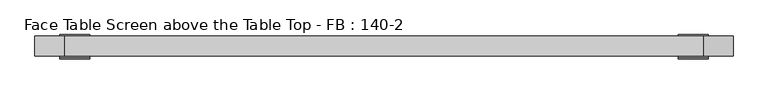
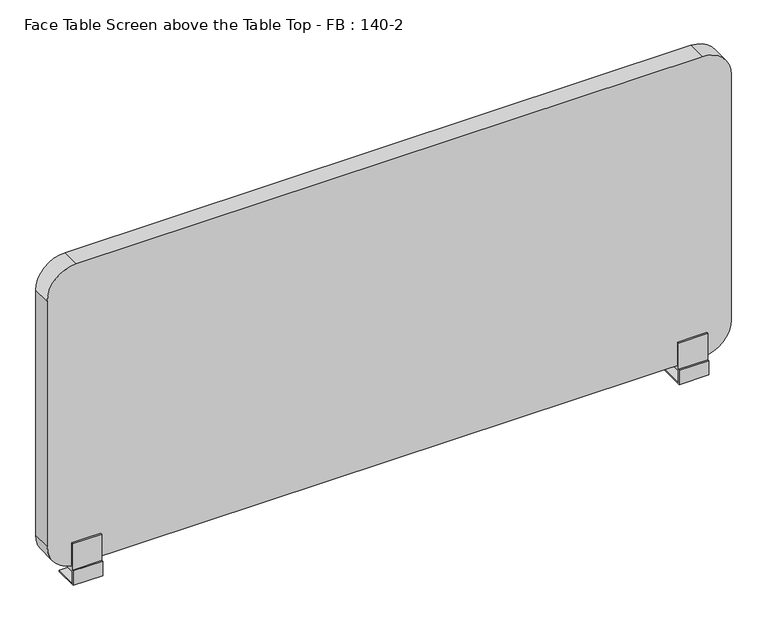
"""IFC4 building model written with IfcOpenShell, lengths in millimetres: furniture geometry, Face Table Screen above the Table Top - FB : 140-2."""

import ifcopenshell
import ifcopenshell.guid

model = None  # the IFC model being written
_history = None  # IfcOwnerHistory: only IFC2X3 demands one
_inside = {}  # id of a spatial element -> (the spatial element, [elements in it])
_under = {}  # id of a project, library or spatial element -> (it, [spatial elements below it])
_declared = {}  # id of a project -> (the project, [libraries it declares])
_typed = {}  # id of a type object -> (the type object, [elements of that type])
_made_of = {}  # id of a material, layer set ... -> (it, [elements and type objects made of it])


def new_model(schema):
    """Start an empty IFC model of exactly this schema.

    Asked for "IFC4X3", IfcOpenShell would pick the latest addendum, in which some entities
    have other attributes; the version numbers below select the first issue.
    IFC2X3 requires an IfcOwnerHistory on every rooted entity: one is made here for all.
    """
    global model, _history
    if schema == "IFC4X3":
        model = ifcopenshell.file(schema_version=(4, 3, 0, 0))
    else:
        model = ifcopenshell.file(schema=schema)
    _inside.clear()
    _under.clear()
    _declared.clear()
    _typed.clear()
    _made_of.clear()
    _history = None
    if model.schema == "IFC2X3":
        org = make("IfcOrganization", Name="unknown")
        user = make(
            "IfcPersonAndOrganization",
            ThePerson=make("IfcPerson", FamilyName="unknown"),
            TheOrganization=org,
        )
        app = make(
            "IfcApplication",
            ApplicationDeveloper=org,
            Version="unknown",
            ApplicationFullName="unknown",
            ApplicationIdentifier="unknown",
        )
        _history = make(
            "IfcOwnerHistory",
            OwningUser=user,
            OwningApplication=app,
            ChangeAction="ADDED",
            CreationDate=0,
        )
    return model


def make(cls, **values):
    """One entity of the class cls with the attributes given. An attribute that is None is left unset."""
    return model.create_entity(
        cls, **{name: value for name, value in values.items() if value is not None}
    )


def rooted(cls, **values):
    """An entity with a GlobalId (a new one), such as an element, a storey or a relation."""
    return make(cls, GlobalId=ifcopenshell.guid.new(), OwnerHistory=_history, **values)


def si_unit(unit_type, name, prefix=None):
    """IfcSIUnit, for example si_unit("LENGTHUNIT", "METRE", prefix="MILLI")."""
    return make("IfcSIUnit", UnitType=unit_type, Prefix=prefix, Name=name)


def assignment(units):
    """IfcUnitAssignment: the units of a project."""
    return None if units is None else make("IfcUnitAssignment", Units=units)


def point(xyz):
    """IfcCartesianPoint."""
    return None if xyz is None else make("IfcCartesianPoint", Coordinates=xyz)


def direction(xyz):
    """IfcDirection."""
    return None if xyz is None else make("IfcDirection", DirectionRatios=xyz)


def frame(location, z_axis=None, x_axis=None):
    """IfcAxis2Placement3D, a coordinate frame: its origin and axes. An axis left out is left unset."""
    return make(
        "IfcAxis2Placement3D",
        Location=point(location),
        Axis=direction(z_axis),
        RefDirection=direction(x_axis),
    )


def frame_2d(location, x_axis=None):
    """IfcAxis2Placement2D, a coordinate frame in the plane: its origin and x axis."""
    return make(
        "IfcAxis2Placement2D", Location=point(location), RefDirection=direction(x_axis)
    )


def origin():
    """The frame at (0, 0, 0) with its axes left unset."""
    return frame((0.0, 0.0, 0.0))


def place(relative_to, where):
    """IfcLocalPlacement: puts the frame where relative to a parent placement (None: the world)."""
    return make(
        "IfcLocalPlacement", PlacementRelTo=relative_to, RelativePlacement=where
    )


def context(
    kind, dimensions, precision=None, world=None, true_north=None, identifier=None
):
    """IfcGeometricRepresentationContext, for example the 3D "Model" context."""
    return make(
        "IfcGeometricRepresentationContext",
        ContextIdentifier=identifier,
        ContextType=kind,
        CoordinateSpaceDimension=dimensions,
        Precision=precision,
        WorldCoordinateSystem=world,
        TrueNorth=true_north,
    )


def project(units=None, contexts=None):
    """IfcProject with its units and contexts."""
    return rooted(
        "IfcProject",
        Name="project",
        RepresentationContexts=contexts,
        UnitsInContext=assignment(units),
    )


def spatial(cls, under=None, at=None, **own):
    """A site, building, storey or space (cls), placed at a placement, below another one or the project."""
    s = rooted(cls, ObjectPlacement=at, **own)
    if under is not None:
        _under.setdefault(under.id(), (under, []))[1].append(s)
    return s


def polyline(points):
    """IfcPolyline through the points."""
    return make("IfcPolyline", Points=[point(p) for p in points])


def circle_curve(where, radius):
    """IfcCircle in the frame where."""
    return make("IfcCircle", Position=where, Radius=radius)


def trimmed(basis, trim1, trim2, sense, master):
    """IfcTrimmedCurve: the piece of a basis curve between two trims."""
    return make(
        "IfcTrimmedCurve",
        BasisCurve=basis,
        Trim1=trim1,
        Trim2=trim2,
        SenseAgreement=sense,
        MasterRepresentation=master,
    )


def segment(curve, same_sense, transition):
    """IfcCompositeCurveSegment."""
    return make(
        "IfcCompositeCurveSegment",
        Transition=transition,
        SameSense=same_sense,
        ParentCurve=curve,
    )


def composite_curve(segments, self_intersect=None):
    """IfcCompositeCurve: segments joined end to end."""
    return make("IfcCompositeCurve", Segments=segments, SelfIntersect=self_intersect)


def outline(outer, holes=None, kind="AREA"):
    """IfcArbitraryClosedProfileDef: a profile drawn as a closed curve; with holes, ...WithVoids."""
    if holes is None:
        return make("IfcArbitraryClosedProfileDef", ProfileType=kind, OuterCurve=outer)
    return make(
        "IfcArbitraryProfileDefWithVoids",
        ProfileType=kind,
        OuterCurve=outer,
        InnerCurves=holes,
    )


def extrude(swept, where, along, depth):
    """IfcExtrudedAreaSolid: the profile swept, set in the frame where, extruded along a direction by depth."""
    return make(
        "IfcExtrudedAreaSolid",
        SweptArea=swept,
        Position=where,
        ExtrudedDirection=direction(along),
        Depth=depth,
    )


def shape(context_of_items, identifier, shape_type, items):
    """IfcShapeRepresentation: the items that make up one representation, for example the "Body"."""
    return make(
        "IfcShapeRepresentation",
        ContextOfItems=context_of_items,
        RepresentationIdentifier=identifier,
        RepresentationType=shape_type,
        Items=items,
    )


def source(mapping_origin, context_of_items, identifier, shape_type, items):
    """IfcRepresentationMap: a shape defined once, which mapped items show again and again."""
    return make(
        "IfcRepresentationMap",
        MappingOrigin=mapping_origin,
        MappedRepresentation=shape(context_of_items, identifier, shape_type, items),
    )


def transform(
    local_origin,
    x_axis=None,
    y_axis=None,
    z_axis=None,
    scale=None,
    scale2=None,
    scale3=None,
    uniform=True,
):
    """IfcCartesianTransformationOperator3D, or its non-uniform kind. x_axis, y_axis, z_axis: its Axis1, 2, 3."""
    if uniform:
        return make(
            "IfcCartesianTransformationOperator3D",
            Axis1=direction(x_axis),
            Axis2=direction(y_axis),
            LocalOrigin=point(local_origin),
            Scale=scale,
            Axis3=direction(z_axis),
        )
    return make(
        "IfcCartesianTransformationOperator3DnonUniform",
        Axis1=direction(x_axis),
        Axis2=direction(y_axis),
        LocalOrigin=point(local_origin),
        Scale=scale,
        Axis3=direction(z_axis),
        Scale2=scale2,
        Scale3=scale3,
    )


def mapped(mapping_source, mapping_target):
    """IfcMappedItem: shows the shape of a source again, moved by a transform."""
    return make(
        "IfcMappedItem", MappingSource=mapping_source, MappingTarget=mapping_target
    )


def made_of(thing, what):
    """Note that an element or type object is made of a material, layer set ...; save() writes the relation."""
    if what is not None:
        _made_of.setdefault(what.id(), (what, []))[1].append(thing)
    return thing


def element(
    cls,
    number,
    at=None,
    inside=None,
    cuts=None,
    type_object=None,
    material=None,
    context=None,
    identifier="Body",
    shape_type=None,
    held_by="IfcProductDefinitionShape",
    body=None,
    shapes=None,
    **own,
):
    """One element of the class cls, such as IfcWall. Its Tag is "e" and its number.

    at: its placement. inside: the storey or other place that contains it. cuts: it is an
    opening in that element (IfcRelVoidsElement). A single representation is given by context,
    identifier, shape_type and body (its items); several are given by shapes. held_by: the class
    of the entity that holds the representations. save() writes the other relations.
    """
    e = rooted(cls, Tag="e%d" % number, ObjectPlacement=at, **own)
    if body is not None:
        shapes = [shape(context, identifier, shape_type, body)]
    if shapes is not None:
        e.Representation = make(held_by, Representations=shapes)
    if inside is not None:
        _inside.setdefault(inside.id(), (inside, []))[1].append(e)
    if cuts is not None:
        rooted(
            "IfcRelVoidsElement", RelatingBuildingElement=cuts, RelatedOpeningElement=e
        )
    if type_object is not None:
        _typed.setdefault(type_object.id(), (type_object, []))[1].append(e)
    return made_of(e, material)


def aggregate(whole, parts):
    """IfcRelAggregates: a whole, such as a stair, and the parts it consists of."""
    return rooted("IfcRelAggregates", RelatingObject=whole, RelatedObjects=parts)


def save(model, path):
    """Write the relations noted so far, then the file.

    IfcRelAggregates (storeys below a building ...), IfcRelContainedInSpatialStructure (elements
    in a storey), IfcRelDefinesByType, IfcRelAssociatesMaterial and IfcRelDeclares: one each for
    every whole, place, type object, material and project.
    """
    for whole, parts in _under.values():
        aggregate(whole, parts)
    for where, things in _inside.values():
        rooted(
            "IfcRelContainedInSpatialStructure",
            RelatedElements=things,
            RelatingStructure=where,
        )
    for kind, things in _typed.values():
        rooted("IfcRelDefinesByType", RelatedObjects=things, RelatingType=kind)
    for what, things in _made_of.values():
        rooted("IfcRelAssociatesMaterial", RelatedObjects=things, RelatingMaterial=what)
    for by, libraries in _declared.values():
        rooted("IfcRelDeclares", RelatingContext=by, RelatedDefinitions=libraries)
    model.write(path)


def plane_surface(at):
    """IfcPlane: the flat surface through the origin of the frame at, square to its z axis."""
    return make("IfcPlane", Position=at)


def cylinder_surface(at, radius):
    """IfcCylindricalSurface: all points at the distance radius from the z axis of the frame at."""
    return make("IfcCylindricalSurface", Position=at, Radius=radius)


def advanced_brep(points, edges, surfaces, faces):
    """IfcAdvancedBrep: a solid bounded by faces that lie on surfaces and meet in shared edges.

    An edge is (start, end): straight between two places in points (the first is 0);
    or (start, end, curve); or (start, end, curve, False) where it runs against its curve.
    A face is (place in surfaces, loops), or (place, loops, False) where it looks against
    its surface's normal. A loop lists edges by number (the first is 1), with a minus sign
    where the edge is run from its end to its start. The first loop is the outer one.
    """
    corners = [point(p) for p in points]
    vertices = [make("IfcVertexPoint", VertexGeometry=c) for c in corners]
    made = []
    for start, end, *more in edges:
        made.append(
            make(
                "IfcEdgeCurve",
                EdgeStart=vertices[start],
                EdgeEnd=vertices[end],
                EdgeGeometry=more[0] if more else make("IfcPolyline", Points=[corners[start], corners[end]]),
                SameSense=more[1] if len(more) > 1 else True,
            )
        )
    hull = []
    for where, loops, *sense in faces:
        bounds = []
        for j, loop in enumerate(loops):
            ring = [make("IfcOrientedEdge", EdgeElement=made[abs(k) - 1], Orientation=k > 0) for k in loop]
            bounds.append(
                make(
                    "IfcFaceOuterBound" if j == 0 else "IfcFaceBound",
                    Bound=make("IfcEdgeLoop", EdgeList=ring),
                    Orientation=True,
                )
            )
        hull.append(make("IfcAdvancedFace", Bounds=bounds, FaceSurface=surfaces[where], SameSense=sense[0] if sense else True))
    return make("IfcAdvancedBrep", Outer=make("IfcClosedShell", CfsFaces=hull))


def face_table_screen_above_the_table_top_fb_140_2_b64e6477(model_context):
    return source(origin(), model_context, "Body", "SolidModel", [
        advanced_brep(
        [(-625.0, 20.0, -39.4406633), (-615.0, 20.0, -39.4406633), (-615.0, 20.0, -28.0), (-625.0, 20.0, -28.0), (-650.0, 43.0, -25.0), (-650.0, -3.0, -25.0), (-590.0, -3.0, -25.0), (-590.0, 43.0, -25.0), (-650.0, -3.0, 0.0), (-650.0, 43.0, -28.0), (-650.0, -6.0, -28.0), (-650.0, -6.0, 3.0), (-650.0, -3.0, 3.0), (-650.0, -3.0, 60.0), (-650.0, 0.0, 60.0), (-650.0, 0.0, 10.0), (-650.0, 40.0, 10.0), (-650.0, 40.0, 60.0), (-650.0, 43.0, 60.0), (-650.0, 43.0, 0.0), (-590.0, -3.0, 0.0), (-590.0, 43.0, 0.0), (-590.0, 43.0, 60.0), (-590.0, 40.0, 60.0), (-590.0, 40.0, 10.0), (-590.0, 0.0, 10.0), (-590.0, 0.0, 60.0), (-590.0, -3.0, 60.0), (-590.0, -3.0, 3.0), (-590.0, -6.0, 3.0), (-590.0, -6.0, -28.0), (-590.0, 43.0, -28.0)],
        [
            (0, 1, circle_curve(frame((-620.0, 20.0, -39.4406633), z_axis=(0.0, 0.0, -1.0), x_axis=(1.0, 0.0, 0.0)), 5.0)),
            (1, 0, circle_curve(frame((-620.0, 20.0, -39.4406633), z_axis=(0.0, 0.0, -1.0), x_axis=(1.0, 0.0, 0.0)), 5.0)),
            (1, 2),
            (2, 3, circle_curve(frame((-620.0, 20.0, -28.0), z_axis=(0.0, 0.0, -1.0), x_axis=(1.0, 0.0, 0.0)), 5.0)),
            (3, 0),
            (3, 2, circle_curve(frame((-620.0, 20.0, -28.0), z_axis=(0.0, 0.0, -1.0), x_axis=(1.0, 0.0, 0.0)), 5.0)),
            (4, 5),
            (5, 6),
            (6, 7),
            (7, 4),
            (8, 5),
            (4, 9),
            (9, 10),
            (10, 11),
            (11, 12),
            (12, 13),
            (13, 14),
            (14, 15),
            (15, 16),
            (16, 17),
            (17, 18),
            (18, 19),
            (19, 8),
            (20, 21),
            (21, 22),
            (22, 23),
            (23, 24),
            (24, 25),
            (25, 26),
            (26, 27),
            (27, 28),
            (28, 29),
            (29, 30),
            (30, 31),
            (31, 7),
            (6, 20),
            (19, 21),
            (20, 8),
            (18, 22),
            (17, 23),
            (16, 24),
            (15, 25),
            (14, 26),
            (13, 27),
            (12, 28),
            (11, 29),
            (10, 30),
            (9, 31),
        ],
        [
            plane_surface(frame((-615.0, 20.0, -39.4406633), z_axis=(0.0, 0.0, -1.0), x_axis=(0.0, -1.0, 0.0))),
            cylinder_surface(frame((-620.0, 20.0, -39.4406633), z_axis=(0.0, 0.0, 1.0), x_axis=(1.0, 0.0, 0.0)), 5.0),
            plane_surface(frame((-615.0, 20.0, -25.0), z_axis=(0.0, 0.0, 1.0), x_axis=(0.0, 1.0, 0.0))),
            plane_surface(frame((-650.0, 43.0, 0.0), z_axis=(-1.0, 0.0, 0.0), x_axis=(0.0, -1.0, 0.0))),
            plane_surface(frame((-590.0, 43.0, 0.0), z_axis=(1.0, 0.0, 0.0), x_axis=(0.0, 1.0, 0.0))),
            plane_surface(frame((-590.0, -3.0, 0.0), z_axis=(0.0, 0.0, -1.0), x_axis=(-1.0, 0.0, 0.0))),
            plane_surface(frame((-590.0, 43.0, 0.0), z_axis=(0.0, 1.0, 0.0), x_axis=(-1.0, 0.0, 0.0))),
            plane_surface(frame((-590.0, 43.0, 60.0), z_axis=(0.0, 0.0, 1.0), x_axis=(-1.0, 0.0, 0.0))),
            plane_surface(frame((-590.0, 40.0, 60.0), z_axis=(0.0, -1.0, 0.0), x_axis=(-1.0, 0.0, 0.0))),
            plane_surface(frame((-590.0, 40.0, 10.0), z_axis=(0.0, 0.0, 1.0), x_axis=(-1.0, 0.0, 0.0))),
            plane_surface(frame((-590.0, 0.0, 10.0), z_axis=(0.0, 1.0, 0.0), x_axis=(-1.0, 0.0, 0.0))),
            plane_surface(frame((-590.0, 0.0, 60.0), z_axis=(0.0, 0.0, 1.0), x_axis=(-1.0, 0.0, 0.0))),
            plane_surface(frame((-590.0, -3.0, 60.0), z_axis=(0.0, -1.0, 0.0), x_axis=(-1.0, 0.0, 0.0))),
            plane_surface(frame((-590.0, -3.0, 3.0), z_axis=(0.0, 0.0, 1.0), x_axis=(-1.0, 0.0, 0.0))),
            plane_surface(frame((-590.0, -6.0, 3.0), z_axis=(0.0, -1.0, 0.0), x_axis=(-1.0, 0.0, 0.0))),
            plane_surface(frame((-590.0, -6.0, -28.0), z_axis=(0.0, 0.0, -1.0), x_axis=(-1.0, 0.0, 0.0))),
            plane_surface(frame((-590.0, 43.0, -28.0), z_axis=(0.0, 1.0, 0.0), x_axis=(-1.0, 0.0, 0.0))),
            plane_surface(frame((-590.0, -3.0, -25.0), z_axis=(0.0, 1.0, 0.0), x_axis=(-1.0, 0.0, 0.0))),
        ],
        [
            (0, [[1, 2]]),
            (1, [[-2, 3, 4, 5]]),
            (1, [[-1, -5, 6, -3]]),
            (2, [[7, 8, 9, 10]]),
            (3, [[11, -7, 12, 13, 14, 15, 16, 17, 18, 19, 20, 21, 22, 23]]),
            (4, [[24, 25, 26, 27, 28, 29, 30, 31, 32, 33, 34, 35, -9, 36]]),
            (5, [[-23, 37, -24, 38]]),
            (6, [[-22, 39, -25, -37]]),
            (7, [[-21, 40, -26, -39]]),
            (8, [[-20, 41, -27, -40]]),
            (9, [[-19, 42, -28, -41]]),
            (10, [[-18, 43, -29, -42]]),
            (11, [[-17, 44, -30, -43]]),
            (12, [[-16, 45, -31, -44]]),
            (13, [[-15, 46, -32, -45]]),
            (14, [[-14, 47, -33, -46]]),
            (15, [[-13, 48, -34, -47], [-4, -6]]),
            (16, [[-12, -10, -35, -48]]),
            (17, [[-11, -38, -36, -8]]),
        ],
    ),
        advanced_brep(
        [(615.0, 20.0, -39.4406633), (625.0, 20.0, -39.4406633), (625.0, 20.0, -28.0), (615.0, 20.0, -28.0), (590.0, 43.0, -25.0), (590.0, -3.0, -25.0), (650.0, -3.0, -25.0), (650.0, 43.0, -25.0), (590.0, -3.0, 0.0), (590.0, 43.0, -28.0), (590.0, -6.0, -28.0), (590.0, -6.0, 3.0), (590.0, -3.0, 3.0), (590.0, -3.0, 60.0), (590.0, 0.0, 60.0), (590.0, 0.0, 10.0), (590.0, 40.0, 10.0), (590.0, 40.0, 60.0), (590.0, 43.0, 60.0), (590.0, 43.0, 0.0), (650.0, -3.0, 0.0), (650.0, 43.0, 0.0), (650.0, 43.0, 60.0), (650.0, 40.0, 60.0), (650.0, 40.0, 10.0), (650.0, 0.0, 10.0), (650.0, 0.0, 60.0), (650.0, -3.0, 60.0), (650.0, -3.0, 3.0), (650.0, -6.0, 3.0), (650.0, -6.0, -28.0), (650.0, 43.0, -28.0)],
        [
            (0, 1, circle_curve(frame((620.0, 20.0, -39.4406633), z_axis=(0.0, 0.0, -1.0), x_axis=(1.0, 0.0, 0.0)), 5.0)),
            (1, 0, circle_curve(frame((620.0, 20.0, -39.4406633), z_axis=(0.0, 0.0, -1.0), x_axis=(1.0, 0.0, 0.0)), 5.0)),
            (1, 2),
            (2, 3, circle_curve(frame((620.0, 20.0, -28.0), z_axis=(0.0, 0.0, -1.0), x_axis=(1.0, 0.0, 0.0)), 5.0)),
            (3, 0),
            (3, 2, circle_curve(frame((620.0, 20.0, -28.0), z_axis=(0.0, 0.0, -1.0), x_axis=(1.0, 0.0, 0.0)), 5.0)),
            (4, 5),
            (5, 6),
            (6, 7),
            (7, 4),
            (8, 5),
            (4, 9),
            (9, 10),
            (10, 11),
            (11, 12),
            (12, 13),
            (13, 14),
            (14, 15),
            (15, 16),
            (16, 17),
            (17, 18),
            (18, 19),
            (19, 8),
            (20, 21),
            (21, 22),
            (22, 23),
            (23, 24),
            (24, 25),
            (25, 26),
            (26, 27),
            (27, 28),
            (28, 29),
            (29, 30),
            (30, 31),
            (31, 7),
            (6, 20),
            (19, 21),
            (20, 8),
            (18, 22),
            (17, 23),
            (16, 24),
            (15, 25),
            (14, 26),
            (13, 27),
            (12, 28),
            (11, 29),
            (10, 30),
            (9, 31),
        ],
        [
            plane_surface(frame((625.0, 20.0, -39.4406633), z_axis=(0.0, 0.0, -1.0), x_axis=(0.0, -1.0, 0.0))),
            cylinder_surface(frame((620.0, 20.0, -39.4406633), z_axis=(0.0, 0.0, 1.0), x_axis=(1.0, 0.0, 0.0)), 5.0),
            plane_surface(frame((625.0, 20.0, -25.0), z_axis=(0.0, 0.0, 1.0), x_axis=(0.0, 1.0, 0.0))),
            plane_surface(frame((590.0, 43.0, 0.0), z_axis=(-1.0, 0.0, 0.0), x_axis=(0.0, -1.0, 0.0))),
            plane_surface(frame((650.0, 43.0, 0.0), z_axis=(1.0, 0.0, 0.0), x_axis=(0.0, 1.0, 0.0))),
            plane_surface(frame((650.0, -3.0, 0.0), z_axis=(0.0, 0.0, -1.0), x_axis=(-1.0, 0.0, 0.0))),
            plane_surface(frame((650.0, 43.0, 0.0), z_axis=(0.0, 1.0, 0.0), x_axis=(-1.0, 0.0, 0.0))),
            plane_surface(frame((650.0, 43.0, 60.0), z_axis=(0.0, 0.0, 1.0), x_axis=(-1.0, 0.0, 0.0))),
            plane_surface(frame((650.0, 40.0, 60.0), z_axis=(0.0, -1.0, 0.0), x_axis=(-1.0, 0.0, 0.0))),
            plane_surface(frame((650.0, 40.0, 10.0), z_axis=(0.0, 0.0, 1.0), x_axis=(-1.0, 0.0, 0.0))),
            plane_surface(frame((650.0, 0.0, 10.0), z_axis=(0.0, 1.0, 0.0), x_axis=(-1.0, 0.0, 0.0))),
            plane_surface(frame((650.0, 0.0, 60.0), z_axis=(0.0, 0.0, 1.0), x_axis=(-1.0, 0.0, 0.0))),
            plane_surface(frame((650.0, -3.0, 60.0), z_axis=(0.0, -1.0, 0.0), x_axis=(-1.0, 0.0, 0.0))),
            plane_surface(frame((650.0, -3.0, 3.0), z_axis=(0.0, 0.0, 1.0), x_axis=(-1.0, 0.0, 0.0))),
            plane_surface(frame((650.0, -6.0, 3.0), z_axis=(0.0, -1.0, 0.0), x_axis=(-1.0, 0.0, 0.0))),
            plane_surface(frame((650.0, -6.0, -28.0), z_axis=(0.0, 0.0, -1.0), x_axis=(-1.0, 0.0, 0.0))),
            plane_surface(frame((650.0, 43.0, -28.0), z_axis=(0.0, 1.0, 0.0), x_axis=(-1.0, 0.0, 0.0))),
            plane_surface(frame((650.0, -3.0, -25.0), z_axis=(0.0, 1.0, 0.0), x_axis=(-1.0, 0.0, 0.0))),
        ],
        [
            (0, [[1, 2]]),
            (1, [[-2, 3, 4, 5]]),
            (1, [[-1, -5, 6, -3]]),
            (2, [[7, 8, 9, 10]]),
            (3, [[11, -7, 12, 13, 14, 15, 16, 17, 18, 19, 20, 21, 22, 23]]),
            (4, [[24, 25, 26, 27, 28, 29, 30, 31, 32, 33, 34, 35, -9, 36]]),
            (5, [[-23, 37, -24, 38]]),
            (6, [[-22, 39, -25, -37]]),
            (7, [[-21, 40, -26, -39]]),
            (8, [[-20, 41, -27, -40]]),
            (9, [[-19, 42, -28, -41]]),
            (10, [[-18, 43, -29, -42]]),
            (11, [[-17, 44, -30, -43]]),
            (12, [[-16, 45, -31, -44]]),
            (13, [[-15, 46, -32, -45]]),
            (14, [[-14, 47, -33, -46]]),
            (15, [[-13, 48, -34, -47], [-4, -6]]),
            (16, [[-12, -10, -35, -48]]),
            (17, [[-11, -38, -36, -8]]),
        ],
    ),
        extrude(outline(composite_curve([segment(polyline([(660.0, 640.0), (660.0, -640.0)]), True, "CONTINUOUS"), segment(trimmed(circle_curve(frame_2d((600.0, -640.0)), 60.0), [point((660.0, -640.0))], [point((600.0, -700.0))], False, "CARTESIAN"), True, "CONTINUOUS"), segment(polyline([(600.0, -700.0), (70.0, -700.0)]), True, "CONTINUOUS"), segment(trimmed(circle_curve(frame_2d((70.0, -640.0)), 60.0), [point((70.0, -700.0))], [point((10.0, -640.0))], False, "CARTESIAN"), True, "CONTINUOUS"), segment(polyline([(10.0, -640.0), (10.0, 640.0)]), True, "CONTINUOUS"), segment(trimmed(circle_curve(frame_2d((70.0, 640.0)), 60.0), [point((10.0, 640.0))], [point((70.0, 700.0))], False, "CARTESIAN"), True, "CONTINUOUS"), segment(polyline([(70.0, 700.0), (600.0, 700.0)]), True, "CONTINUOUS"), segment(trimmed(circle_curve(frame_2d((600.0, 640.0)), 60.0), [point((600.0, 700.0))], [point((660.0, 640.0))], False, "CARTESIAN"), True, "CONTINUOUS")], self_intersect=False)), frame((0.0, 0.0, 0.0), z_axis=(0.0, 1.0, 0.0), x_axis=(0.0, 0.0, 1.0)), (0.0, 0.0, 1.0), 40.0),
    ])


if __name__ == "__main__":
    model = new_model("IFC4")
    model_context = context("Model", 3, world=origin())
    ifc_project = project(units=[si_unit("LENGTHUNIT", "METRE", prefix="MILLI")], contexts=[model_context])
    site = spatial("IfcSite", under=ifc_project)
    building = spatial("IfcBuilding", under=site)
    placement = place(None, origin())
    face_table_screen_above_the_table_top_fb_140_2_shape = face_table_screen_above_the_table_top_fb_140_2_b64e6477(model_context)
    element("IfcFurniture", 1, ObjectType="Face Table Screen above the Table Top - FB : 140-2", at=placement, inside=building, context=model_context, shape_type="MappedRepresentation", body=[
        mapped(face_table_screen_above_the_table_top_fb_140_2_shape, transform((0.0, 0.0, 0.0), x_axis=(1.0, 0.0, 0.0), y_axis=(0.0, 1.0, 0.0), z_axis=(0.0, 0.0, 1.0))),
    ])
    save(model, "model.ifc")
